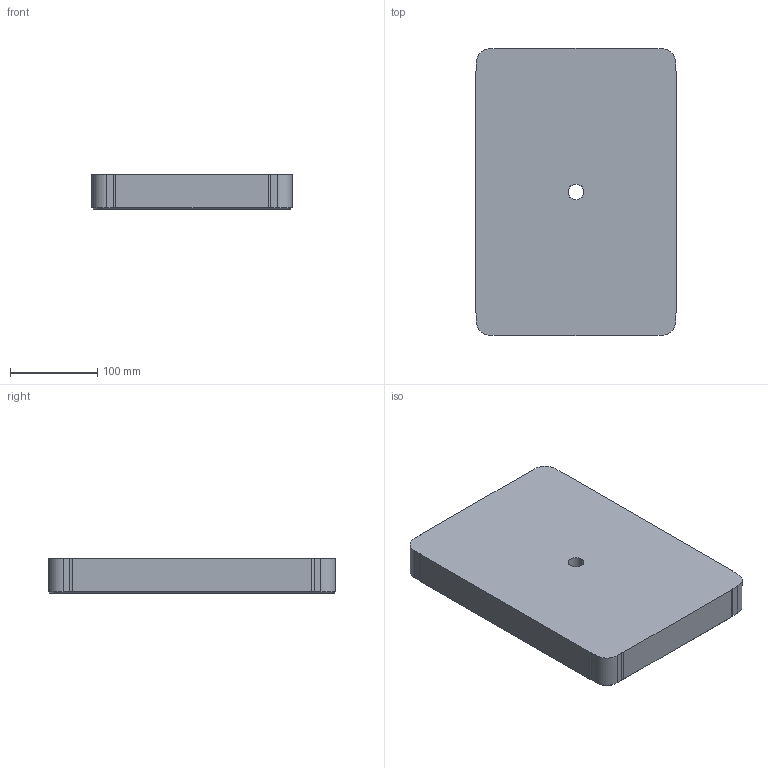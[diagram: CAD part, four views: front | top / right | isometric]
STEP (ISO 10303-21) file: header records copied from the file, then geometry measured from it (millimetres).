
FILE_DESCRIPTION (( 'STEP AP214' ), '1' );
FILE_NAME ('DS-Formeinsatz 230_330_40.STEP', '2024-02-29T10:01:50', ( '' ), ( '' ), 'SwSTEP 2.0', 'SolidWorks 2020', '' );
FILE_SCHEMA (( 'AUTOMOTIVE_DESIGN' ));
Length unit declared in the file: millimetre
Products named in the file (1): DS-Formeinsatz 230_330_40
Bounding box: 230 x 330 x 40 mm (x, y, z)
Volume: 3002926.9 mm3; surface area: 198566.1 mm2
Topology: 1 solids, 1 shells, 72 faces, 172 edges, 102 vertices
Faces by surface type: plane 26, cone 26, cylinder 20
Full cylindrical faces by diameter (mm): 8.5 x6, 18 x1, 18.5 x1
Entity records: 1924 total; most frequent: DIRECTION 340, CARTESIAN_POINT 335, ORIENTED_EDGE 286, EDGE_CURVE 143, AXIS2_PLACEMENT_3D 132, EDGE_LOOP 96, VERTEX_POINT 95, FACE_OUTER_BOUND 80
